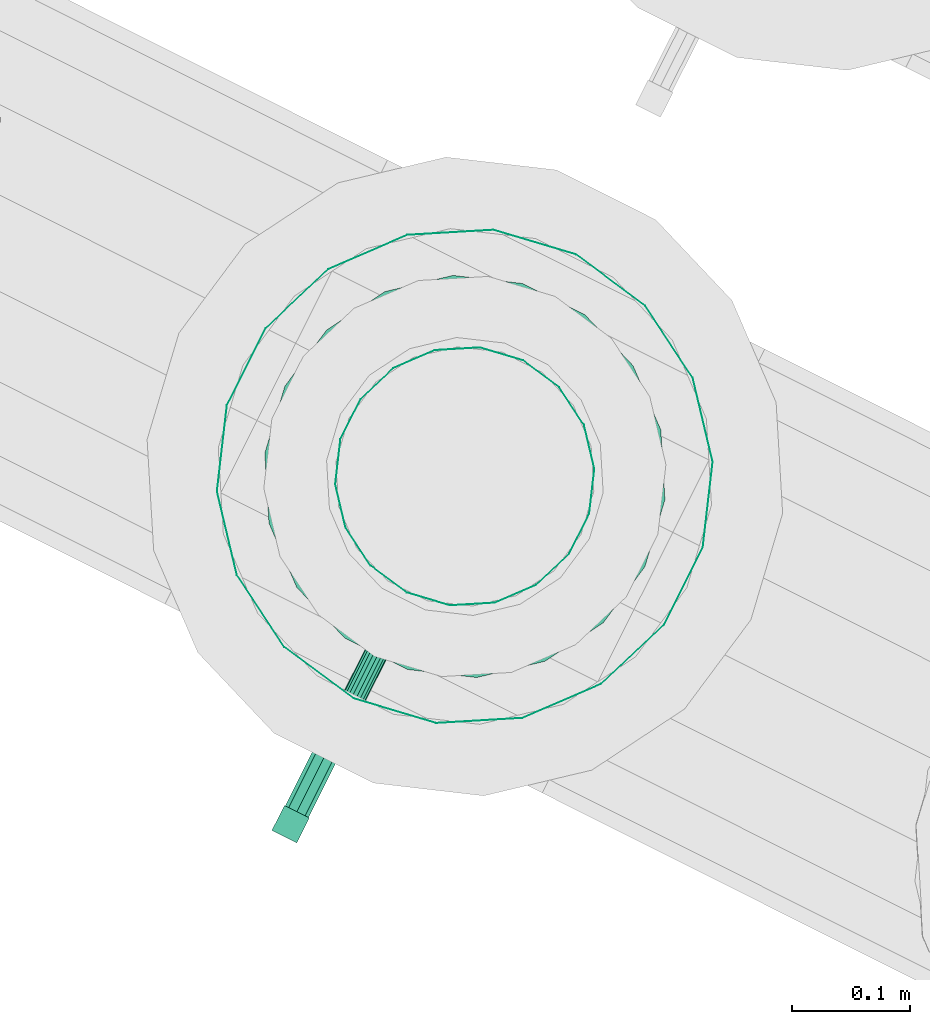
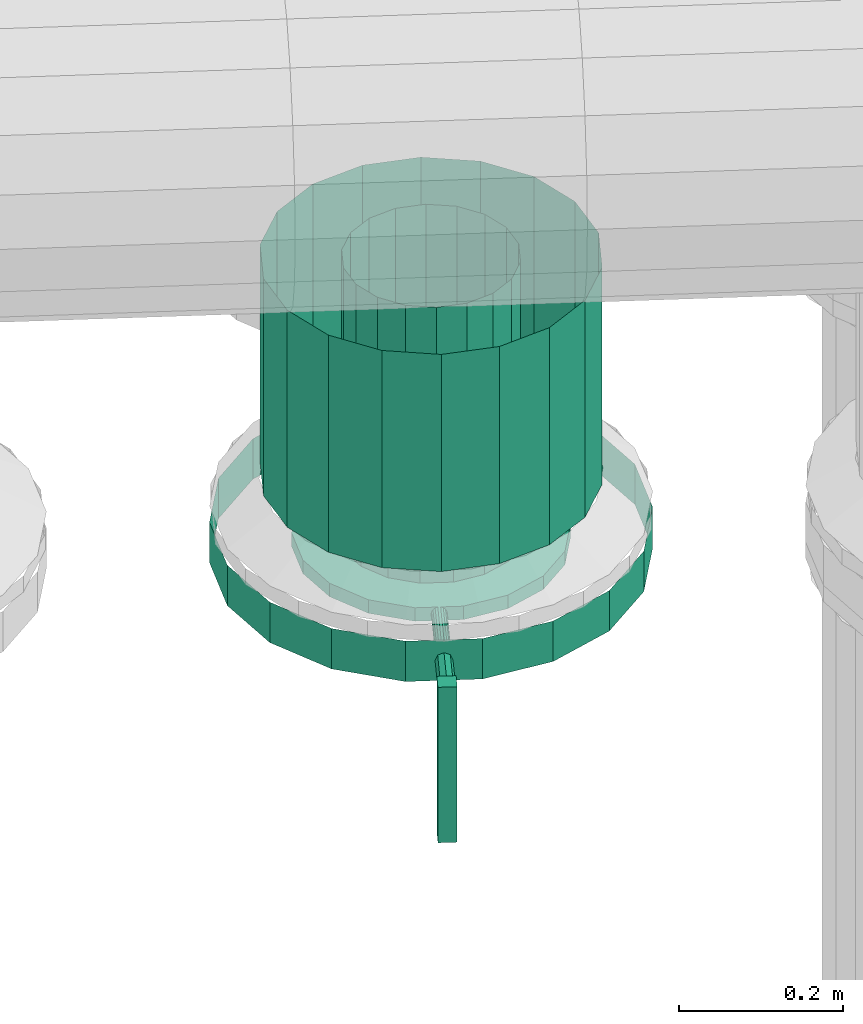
# One storey, part 91 of 152: 1 flow controller, 1 flow segment.
"""IFC2X3 building model written with IfcOpenShell, lengths in metres."""

from ifc_helpers import new_model, si_unit, derived_unit, direction, frame, origin, place, context, subcontext, project, spatial, face_set, surface_model, source, transform, mapped, material, type_object, type_shapes, element, save


model = new_model("IFC2X3")

# Units and contexts
model_context = context("Model", 3, precision=5.2338327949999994e-05, world=origin(), true_north=direction((0.0, 1.0)))
body_context = subcontext(model_context, "Body", "Model", "MODEL_VIEW")
ifc_project = project(units=[si_unit("LENGTHUNIT", "METRE"), si_unit("AREAUNIT", "SQUARE_METRE"), si_unit("VOLUMEUNIT", "CUBIC_METRE"), si_unit("MASSUNIT", "GRAM", prefix="KILO"), si_unit("PLANEANGLEUNIT", "RADIAN"), derived_unit("THERMALTRANSMITTANCEUNIT", [(si_unit("MASSUNIT", "GRAM", prefix="KILO"), 1), (si_unit("THERMODYNAMICTEMPERATUREUNIT", "KELVIN"), -1), (si_unit("TIMEUNIT", "SECOND"), -3)])], contexts=[model_context])

# Site, building, storey
site_placement = place(None, frame((0.0, 0.0, 0.0), z_axis=(0.0, 0.0, 1.0), x_axis=(0.8939966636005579, -0.4480736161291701, 0.0)))
site = spatial("IfcSite", under=ifc_project, at=site_placement, Name="Default", CompositionType="ELEMENT")
building_placement = place(site_placement, origin())
building = spatial("IfcBuilding", under=site, at=building_placement, CompositionType="ELEMENT")
storey_placement = place(building_placement, frame((0.0, 0.0, 2.7499999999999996)))
storey = spatial("IfcBuildingStorey", under=building, at=storey_placement, Name="1. Obergeschoss", CompositionType="ELEMENT", Elevation=2.7499999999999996)

# Flow controller
ifc_material = material(Name="IfcSurfaceStyle #9317")
distribution_element_type_1 = type_object("IfcDistributionElementType", Name="Zwischenflanschklappe 245443:Zwischenflanschklappe 245443", material=ifc_material)
shared_shape_1 = source(origin(), body_context, "Body", "SurfaceModel", [
    surface_model("IfcFaceBasedSurfaceModel", [(5.849669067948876, 7.010708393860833, 4.741522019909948), (5.849669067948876, 7.010708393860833, 4.9723720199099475), (5.873169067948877, 7.010708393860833, 4.9723720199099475), (5.873169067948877, 7.010708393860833, 4.741522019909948), (5.873169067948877, 6.987208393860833, 4.9723720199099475), (5.873169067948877, 6.987208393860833, 4.741522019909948), (5.849669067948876, 6.987208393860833, 4.9723720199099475), (5.849669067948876, 6.987208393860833, 4.741522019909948), (5.978919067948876, 7.3272083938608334, 4.930622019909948), (5.971832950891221, 7.367395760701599, 4.930622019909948), (5.971832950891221, 7.367395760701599, 4.9506220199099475), (5.978919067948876, 7.3272083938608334, 4.9506220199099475), (5.951429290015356, 7.402735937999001, 4.930622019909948), (5.951429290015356, 7.402735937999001, 4.9506220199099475), (5.920169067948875, 7.428966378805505, 4.930622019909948), (5.920169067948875, 7.428966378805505, 4.9506220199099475), (5.881822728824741, 7.442923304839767, 4.930622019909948), (5.881822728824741, 7.442923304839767, 4.9506220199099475), (5.841015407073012, 7.442923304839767, 4.930622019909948), (5.841015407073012, 7.442923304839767, 4.9506220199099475), (5.802669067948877, 7.428966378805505, 4.930622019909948), (5.802669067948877, 7.428966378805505, 4.9506220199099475), (5.771408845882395, 7.402735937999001, 4.930622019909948), (5.771408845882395, 7.402735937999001, 4.9506220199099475), (5.75100518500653, 7.367395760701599, 4.930622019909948), (5.75100518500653, 7.367395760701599, 4.9506220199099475), (5.743919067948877, 7.3272083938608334, 4.930622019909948), (5.743919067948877, 7.3272083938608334, 4.9506220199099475), (5.75100518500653, 7.287021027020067, 4.930622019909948), (5.75100518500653, 7.287021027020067, 4.9506220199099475), (5.771408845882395, 7.251680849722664, 4.930622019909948), (5.771408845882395, 7.251680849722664, 4.9506220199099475), (5.802669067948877, 7.22545040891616, 4.930622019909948), (5.802669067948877, 7.22545040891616, 4.9506220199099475), (5.841015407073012, 7.211493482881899, 4.930622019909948), (5.841015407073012, 7.211493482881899, 4.9506220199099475), (5.881822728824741, 7.211493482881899, 4.930622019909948), (5.881822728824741, 7.211493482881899, 4.9506220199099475), (5.920169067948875, 7.225450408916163, 4.930622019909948), (5.920169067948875, 7.225450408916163, 4.9506220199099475), (5.951429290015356, 7.251680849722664, 4.930622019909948), (5.951429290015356, 7.251680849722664, 4.9506220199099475), (5.971832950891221, 7.287021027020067, 4.930622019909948), (5.971832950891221, 7.287021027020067, 4.9506220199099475), (5.861419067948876, 7.3272083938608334, 4.930622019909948), (5.861419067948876, 7.3272083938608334, 4.9506220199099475), (6.031419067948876, 7.3272083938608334, 4.9506220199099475), (6.0211668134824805, 7.385351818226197, 4.9506220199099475), (6.0211668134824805, 7.385351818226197, 4.970622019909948), (6.031419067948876, 7.3272083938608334, 4.970622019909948), (5.991646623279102, 7.436482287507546, 4.9506220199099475), (5.991646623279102, 7.436482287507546, 4.970622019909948), (5.9464190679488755, 7.4744327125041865, 4.9506220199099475), (5.9464190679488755, 7.4744327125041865, 4.970622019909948), (5.890939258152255, 7.494625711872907, 4.9506220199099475), (5.890939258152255, 7.494625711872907, 4.970622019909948), (5.831898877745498, 7.494625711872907, 4.9506220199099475), (5.831898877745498, 7.494625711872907, 4.970622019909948), (5.776419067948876, 7.4744327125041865, 4.9506220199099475), (5.776419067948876, 7.4744327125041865, 4.970622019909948), (5.731191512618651, 7.436482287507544, 4.9506220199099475), (5.731191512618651, 7.436482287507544, 4.970622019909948), (5.701671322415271, 7.385351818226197, 4.9506220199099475), (5.701671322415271, 7.385351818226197, 4.970622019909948), (5.6914190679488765, 7.3272083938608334, 4.9506220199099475), (5.6914190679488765, 7.3272083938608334, 4.970622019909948), (5.701671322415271, 7.269064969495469, 4.9506220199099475), (5.701671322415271, 7.269064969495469, 4.970622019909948), (5.731191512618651, 7.21793450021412, 4.9506220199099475), (5.731191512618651, 7.21793450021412, 4.970622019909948), (5.776419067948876, 7.179984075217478, 4.9506220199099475), (5.776419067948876, 7.179984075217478, 4.970622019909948), (5.831898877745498, 7.159791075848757, 4.9506220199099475), (5.831898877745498, 7.159791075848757, 4.970622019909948), (5.8909392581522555, 7.159791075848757, 4.9506220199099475), (5.8909392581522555, 7.159791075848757, 4.970622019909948), (5.9464190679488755, 7.179984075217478, 4.9506220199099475), (5.9464190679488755, 7.179984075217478, 4.970622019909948), (5.991646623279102, 7.217934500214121, 4.9506220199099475), (5.991646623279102, 7.217934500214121, 4.970622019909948), (6.021166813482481, 7.269064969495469, 4.9506220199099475), (6.021166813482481, 7.269064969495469, 4.970622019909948), (5.861419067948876, 7.3272083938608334, 4.970622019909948), (5.978919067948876, 7.3272083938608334, 4.970622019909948), (5.971832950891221, 7.367395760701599, 4.970622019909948), (5.971832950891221, 7.367395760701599, 4.990622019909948), (5.978919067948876, 7.3272083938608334, 4.990622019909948), (5.951429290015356, 7.402735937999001, 4.970622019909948), (5.951429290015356, 7.402735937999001, 4.990622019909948), (5.920169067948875, 7.428966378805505, 4.970622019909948), (5.920169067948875, 7.428966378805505, 4.990622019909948), (5.881822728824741, 7.442923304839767, 4.970622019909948), (5.881822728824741, 7.442923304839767, 4.990622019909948), (5.841015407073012, 7.442923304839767, 4.970622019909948), (5.841015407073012, 7.442923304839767, 4.990622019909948), (5.802669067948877, 7.428966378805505, 4.970622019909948), (5.802669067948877, 7.428966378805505, 4.990622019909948), (5.771408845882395, 7.402735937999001, 4.970622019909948), (5.771408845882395, 7.402735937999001, 4.990622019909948), (5.75100518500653, 7.367395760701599, 4.970622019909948), (5.75100518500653, 7.367395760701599, 4.990622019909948), (5.743919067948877, 7.3272083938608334, 4.970622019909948), (5.743919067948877, 7.3272083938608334, 4.990622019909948), (5.75100518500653, 7.287021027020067, 4.970622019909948), (5.75100518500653, 7.287021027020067, 4.990622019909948), (5.771408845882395, 7.251680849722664, 4.970622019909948), (5.771408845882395, 7.251680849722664, 4.990622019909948), (5.802669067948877, 7.22545040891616, 4.970622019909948), (5.802669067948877, 7.22545040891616, 4.990622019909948), (5.841015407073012, 7.211493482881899, 4.970622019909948), (5.841015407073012, 7.211493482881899, 4.990622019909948), (5.881822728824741, 7.211493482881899, 4.970622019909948), (5.881822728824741, 7.211493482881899, 4.990622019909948), (5.920169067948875, 7.225450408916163, 4.970622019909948), (5.920169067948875, 7.225450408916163, 4.990622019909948), (5.951429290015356, 7.251680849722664, 4.970622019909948), (5.951429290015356, 7.251680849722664, 4.990622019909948), (5.971832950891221, 7.287021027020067, 4.970622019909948), (5.971832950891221, 7.287021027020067, 4.990622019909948), (5.861419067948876, 7.3272083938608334, 4.990622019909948), (5.871419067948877, 7.3272083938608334, 4.960622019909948), (5.870815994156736, 7.3272083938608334, 4.964042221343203), (5.870815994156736, 7.083958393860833, 4.964042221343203), (5.871419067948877, 7.083958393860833, 4.960622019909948), (5.869079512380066, 7.3272083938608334, 4.967049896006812), (5.869079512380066, 7.083958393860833, 4.967049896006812), (5.8664190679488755, 7.3272083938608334, 4.969282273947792), (5.8664190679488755, 7.083958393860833, 4.969282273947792), (5.863155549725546, 7.3272083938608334, 4.97047009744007), (5.863155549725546, 7.083958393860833, 4.97047009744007), (5.859682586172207, 7.3272083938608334, 4.97047009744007), (5.859682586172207, 7.083958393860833, 4.97047009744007), (5.856419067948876, 7.3272083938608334, 4.969282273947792), (5.856419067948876, 7.083958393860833, 4.969282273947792), (5.8537586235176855, 7.3272083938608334, 4.967049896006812), (5.8537586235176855, 7.083958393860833, 4.967049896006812), (5.852022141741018, 7.3272083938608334, 4.964042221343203), (5.852022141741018, 7.083958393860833, 4.964042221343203), (5.851419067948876, 7.3272083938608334, 4.960622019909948), (5.851419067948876, 7.083958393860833, 4.960622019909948), (5.852022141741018, 7.3272083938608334, 4.957201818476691), (5.852022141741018, 7.083958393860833, 4.957201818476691), (5.8537586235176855, 7.3272083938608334, 4.9541941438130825), (5.8537586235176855, 7.083958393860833, 4.9541941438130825), (5.856419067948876, 7.3272083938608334, 4.951961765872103), (5.856419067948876, 7.083958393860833, 4.951961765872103), (5.859682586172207, 7.3272083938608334, 4.950773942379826), (5.859682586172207, 7.083958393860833, 4.950773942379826), (5.863155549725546, 7.3272083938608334, 4.950773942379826), (5.863155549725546, 7.083958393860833, 4.950773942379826), (5.8664190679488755, 7.3272083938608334, 4.951961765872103), (5.8664190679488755, 7.083958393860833, 4.951961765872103), (5.869079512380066, 7.3272083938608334, 4.9541941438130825), (5.869079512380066, 7.083958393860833, 4.9541941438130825), (5.870815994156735, 7.3272083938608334, 4.957201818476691), (5.870815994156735, 7.083958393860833, 4.957201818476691), (5.861419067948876, 7.3272083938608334, 4.960622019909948), (5.861419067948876, 7.083958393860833, 4.960622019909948), (5.8723740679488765, 7.083958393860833, 4.960622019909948), (5.869165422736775, 7.083958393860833, 4.968368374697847), (5.869165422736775, 7.010708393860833, 4.968368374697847), (5.8723740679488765, 7.010708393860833, 4.960622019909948), (5.861419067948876, 7.083958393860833, 4.971577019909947), (5.861419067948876, 7.010708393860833, 4.971577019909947), (5.853672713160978, 7.083958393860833, 4.968368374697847), (5.853672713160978, 7.010708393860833, 4.968368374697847), (5.850464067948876, 7.083958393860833, 4.960622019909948), (5.850464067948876, 7.010708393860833, 4.960622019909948), (5.853672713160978, 7.083958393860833, 4.952875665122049), (5.853672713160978, 7.010708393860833, 4.952875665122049), (5.861419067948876, 7.083958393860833, 4.949667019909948), (5.861419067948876, 7.010708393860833, 4.949667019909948), (5.869165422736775, 7.083958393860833, 4.952875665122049), (5.869165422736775, 7.010708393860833, 4.952875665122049), (5.861419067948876, 7.010708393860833, 4.960622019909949), (6.131419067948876, 7.3272083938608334, 4.930622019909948), (6.115136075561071, 7.419553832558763, 4.930622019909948), (6.115136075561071, 7.419553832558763, 4.990622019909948), (6.131419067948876, 7.3272083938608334, 4.990622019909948), (6.068251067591, 7.500761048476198, 4.930622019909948), (6.068251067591, 7.500761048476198, 4.990622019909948), (5.996419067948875, 7.561035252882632, 4.930622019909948), (5.996419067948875, 7.561035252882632, 4.990622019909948), (5.908304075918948, 7.593106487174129, 4.930622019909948), (5.908304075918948, 7.593106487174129, 4.990622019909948), (5.814534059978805, 7.593106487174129, 4.930622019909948), (5.814534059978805, 7.593106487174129, 4.990622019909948), (5.726419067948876, 7.561035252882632, 4.930622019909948), (5.726419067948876, 7.561035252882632, 4.990622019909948), (5.6545870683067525, 7.500761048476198, 4.930622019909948), (5.6545870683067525, 7.500761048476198, 4.990622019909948), (5.60770206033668, 7.419553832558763, 4.930622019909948), (5.60770206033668, 7.419553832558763, 4.990622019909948), (5.591419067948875, 7.3272083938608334, 4.930622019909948), (5.591419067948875, 7.3272083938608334, 4.990622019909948), (5.60770206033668, 7.234862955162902, 4.930622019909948), (5.60770206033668, 7.234862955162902, 4.990622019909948), (5.6545870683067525, 7.153655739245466, 4.930622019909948), (5.6545870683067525, 7.153655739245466, 4.990622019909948), (5.726419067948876, 7.093381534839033, 4.930622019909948), (5.726419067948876, 7.093381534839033, 4.990622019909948), (5.814534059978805, 7.061310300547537, 4.930622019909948), (5.814534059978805, 7.061310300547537, 4.990622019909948), (5.908304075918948, 7.061310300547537, 4.930622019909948), (5.908304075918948, 7.061310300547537, 4.990622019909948), (5.996419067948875, 7.093381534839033, 4.930622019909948), (5.996419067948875, 7.093381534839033, 4.990622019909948), (6.068251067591, 7.153655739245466, 4.930622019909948), (6.068251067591, 7.153655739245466, 4.990622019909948), (6.115136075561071, 7.234862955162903, 4.930622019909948), (6.115136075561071, 7.234862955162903, 4.990622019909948)], [face_set([[[0, 1, 2, 3]], [[3, 2, 4, 5]], [[5, 4, 6, 7]], [[7, 6, 1, 0]], [[0, 3, 5, 7]], [[6, 4, 2, 1]], [[8, 9, 10, 11]], [[9, 12, 13, 10]], [[12, 14, 15, 13]], [[14, 16, 17, 15]], [[16, 18, 19, 17]], [[18, 20, 21, 19]], [[20, 22, 23, 21]], [[22, 24, 25, 23]], [[24, 26, 27, 25]], [[26, 28, 29, 27]], [[28, 30, 31, 29]], [[30, 32, 33, 31]], [[32, 34, 35, 33]], [[34, 36, 37, 35]], [[36, 38, 39, 37]], [[38, 40, 41, 39]], [[40, 42, 43, 41]], [[42, 8, 11, 43]], [[44, 9, 8]], [[44, 12, 9]], [[44, 14, 12]], [[44, 16, 14]], [[44, 18, 16]], [[44, 20, 18]], [[44, 22, 20]], [[44, 24, 22]], [[44, 26, 24]], [[44, 28, 26]], [[44, 30, 28]], [[44, 32, 30]], [[44, 34, 32]], [[44, 36, 34]], [[44, 38, 36]], [[44, 40, 38]], [[44, 42, 40]], [[44, 8, 42]], [[45, 43, 11]], [[45, 41, 43]], [[45, 39, 41]], [[45, 37, 39]], [[45, 35, 37]], [[45, 33, 35]], [[45, 31, 33]], [[45, 29, 31]], [[45, 27, 29]], [[45, 25, 27]], [[45, 23, 25]], [[45, 21, 23]], [[45, 19, 21]], [[45, 17, 19]], [[45, 15, 17]], [[45, 13, 15]], [[45, 10, 13]], [[45, 11, 10]], [[46, 47, 48, 49]], [[47, 50, 51, 48]], [[50, 52, 53, 51]], [[52, 54, 55, 53]], [[54, 56, 57, 55]], [[56, 58, 59, 57]], [[58, 60, 61, 59]], [[60, 62, 63, 61]], [[62, 64, 65, 63]], [[64, 66, 67, 65]], [[66, 68, 69, 67]], [[68, 70, 71, 69]], [[70, 72, 73, 71]], [[72, 74, 75, 73]], [[74, 76, 77, 75]], [[76, 78, 79, 77]], [[78, 80, 81, 79]], [[80, 46, 49, 81]], [[45, 47, 46]], [[45, 50, 47]], [[45, 52, 50]], [[45, 54, 52]], [[45, 56, 54]], [[45, 58, 56]], [[45, 60, 58]], [[45, 62, 60]], [[45, 64, 62]], [[45, 66, 64]], [[45, 68, 66]], [[45, 70, 68]], [[45, 72, 70]], [[45, 74, 72]], [[45, 76, 74]], [[45, 78, 76]], [[45, 80, 78]], [[45, 46, 80]], [[82, 81, 49]], [[82, 79, 81]], [[82, 77, 79]], [[82, 75, 77]], [[82, 73, 75]], [[82, 71, 73]], [[82, 69, 71]], [[82, 67, 69]], [[82, 65, 67]], [[82, 63, 65]], [[82, 61, 63]], [[82, 59, 61]], [[82, 57, 59]], [[82, 55, 57]], [[82, 53, 55]], [[82, 51, 53]], [[82, 48, 51]], [[82, 49, 48]], [[83, 84, 85, 86]], [[84, 87, 88, 85]], [[87, 89, 90, 88]], [[89, 91, 92, 90]], [[91, 93, 94, 92]], [[93, 95, 96, 94]], [[95, 97, 98, 96]], [[97, 99, 100, 98]], [[99, 101, 102, 100]], [[101, 103, 104, 102]], [[103, 105, 106, 104]], [[105, 107, 108, 106]], [[107, 109, 110, 108]], [[109, 111, 112, 110]], [[111, 113, 114, 112]], [[113, 115, 116, 114]], [[115, 117, 118, 116]], [[117, 83, 86, 118]], [[82, 84, 83]], [[82, 87, 84]], [[82, 89, 87]], [[82, 91, 89]], [[82, 93, 91]], [[82, 95, 93]], [[82, 97, 95]], [[82, 99, 97]], [[82, 101, 99]], [[82, 103, 101]], [[82, 105, 103]], [[82, 107, 105]], [[82, 109, 107]], [[82, 111, 109]], [[82, 113, 111]], [[82, 115, 113]], [[82, 117, 115]], [[82, 83, 117]], [[119, 118, 86]], [[119, 116, 118]], [[119, 114, 116]], [[119, 112, 114]], [[119, 110, 112]], [[119, 108, 110]], [[119, 106, 108]], [[119, 104, 106]], [[119, 102, 104]], [[119, 100, 102]], [[119, 98, 100]], [[119, 96, 98]], [[119, 94, 96]], [[119, 92, 94]], [[119, 90, 92]], [[119, 88, 90]], [[119, 85, 88]], [[119, 86, 85]], [[120, 121, 122, 123]], [[121, 124, 125, 122]], [[124, 126, 127, 125]], [[126, 128, 129, 127]], [[128, 130, 131, 129]], [[130, 132, 133, 131]], [[132, 134, 135, 133]], [[134, 136, 137, 135]], [[136, 138, 139, 137]], [[138, 140, 141, 139]], [[140, 142, 143, 141]], [[142, 144, 145, 143]], [[144, 146, 147, 145]], [[146, 148, 149, 147]], [[148, 150, 151, 149]], [[150, 152, 153, 151]], [[152, 154, 155, 153]], [[154, 120, 123, 155]], [[156, 121, 120]], [[156, 124, 121]], [[156, 126, 124]], [[156, 128, 126]], [[156, 130, 128]], [[156, 132, 130]], [[156, 134, 132]], [[156, 136, 134]], [[156, 138, 136]], [[156, 140, 138]], [[156, 142, 140]], [[156, 144, 142]], [[156, 146, 144]], [[156, 148, 146]], [[156, 150, 148]], [[156, 152, 150]], [[156, 154, 152]], [[156, 120, 154]], [[157, 155, 123]], [[157, 153, 155]], [[157, 151, 153]], [[157, 149, 151]], [[157, 147, 149]], [[157, 145, 147]], [[157, 143, 145]], [[157, 141, 143]], [[157, 139, 141]], [[157, 137, 139]], [[157, 135, 137]], [[157, 133, 135]], [[157, 131, 133]], [[157, 129, 131]], [[157, 127, 129]], [[157, 125, 127]], [[157, 122, 125]], [[157, 123, 122]], [[158, 159, 160, 161]], [[159, 162, 163, 160]], [[162, 164, 165, 163]], [[164, 166, 167, 165]], [[166, 168, 169, 167]], [[168, 170, 171, 169]], [[170, 172, 173, 171]], [[172, 158, 161, 173]], [[174, 173, 161]], [[174, 171, 173]], [[174, 169, 171]], [[174, 167, 169]], [[174, 165, 167]], [[174, 163, 165]], [[174, 160, 163]], [[174, 161, 160]], [[175, 176, 177, 178]], [[176, 179, 180, 177]], [[179, 181, 182, 180]], [[181, 183, 184, 182]], [[183, 185, 186, 184]], [[185, 187, 188, 186]], [[187, 189, 190, 188]], [[189, 191, 192, 190]], [[191, 193, 194, 192]], [[193, 195, 196, 194]], [[195, 197, 198, 196]], [[197, 199, 200, 198]], [[199, 201, 202, 200]], [[201, 203, 204, 202]], [[203, 205, 206, 204]], [[205, 207, 208, 206]], [[207, 209, 210, 208]], [[209, 175, 178, 210]]])]),
])
type_shapes(distribution_element_type_1, [shared_shape_1])
flow_controller_placement = place(storey_placement, frame((0.0, 0.0, -2.7499999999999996)))
element("IfcFlowController", 1, at=flow_controller_placement, inside=storey, type_object=distribution_element_type_1, material=ifc_material, Name="Zwischenflanschklappe", ObjectType="Zwischenflanschklappe", context=body_context, shape_type="MappedRepresentation", body=[
    mapped(shared_shape_1, transform((0.0, 0.0, 0.0), scale=1.0)),
])

# Flow segment
distribution_element_type_2 = type_object("IfcDistributionElementType", Name="Stahlrohr nach DIN 2448 245466:Stahlrohr nach DIN 2448 245466", material=ifc_material)
shared_shape_2 = source(origin(), body_context, "Body", "SurfaceModel", [
    surface_model("IfcFaceBasedSurfaceModel", [(5.8614190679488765, 7.217658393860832, 5.375028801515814), (5.82395076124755, 7.224265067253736, 5.375028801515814), (5.82395076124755, 7.224265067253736, 5.052622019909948), (5.8614190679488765, 7.217658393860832, 5.052622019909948), (5.791001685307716, 7.243288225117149, 5.375028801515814), (5.791001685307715, 7.243288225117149, 5.052622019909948), (5.766545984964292, 7.272433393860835, 5.375028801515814), (5.766545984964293, 7.272433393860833, 5.052622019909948), (5.753533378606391, 7.30818523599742, 5.375028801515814), (5.753533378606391, 7.30818523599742, 5.052622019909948), (5.753533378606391, 7.346231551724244, 5.375028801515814), (5.753533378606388, 7.346231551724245, 5.052622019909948), (5.766545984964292, 7.381983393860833, 5.375028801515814), (5.766545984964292, 7.381983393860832, 5.052622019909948), (5.7910016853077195, 7.411128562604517, 5.375028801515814), (5.791001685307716, 7.411128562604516, 5.052622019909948), (5.823950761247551, 7.430151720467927, 5.375028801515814), (5.82395076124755, 7.430151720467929, 5.052622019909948), (5.861419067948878, 7.436758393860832, 5.375028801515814), (5.8614190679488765, 7.436758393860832, 5.052622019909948), (5.898887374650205, 7.430151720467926, 5.375028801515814), (5.898887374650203, 7.430151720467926, 5.052622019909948), (5.931836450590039, 7.411128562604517, 5.375028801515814), (5.931836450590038, 7.411128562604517, 5.052622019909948), (5.9562921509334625, 7.381983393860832, 5.375028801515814), (5.956292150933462, 7.381983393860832, 5.052622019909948), (5.969304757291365, 7.346231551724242, 5.375028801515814), (5.969304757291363, 7.3462315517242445, 5.052622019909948), (5.969304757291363, 7.30818523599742, 5.375028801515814), (5.969304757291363, 7.30818523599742, 5.052622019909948), (5.956292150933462, 7.272433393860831, 5.375028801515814), (5.956292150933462, 7.272433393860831, 5.052622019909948), (5.931836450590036, 7.243288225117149, 5.375028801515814), (5.931836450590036, 7.243288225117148, 5.052622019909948), (5.8988873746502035, 7.224265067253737, 5.375028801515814), (5.898887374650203, 7.224265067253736, 5.052622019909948), (5.8614190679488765, 7.1176583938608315, 5.375028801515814), (5.789748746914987, 7.130295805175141, 5.375028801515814), (5.789748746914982, 7.130295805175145, 5.052622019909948), (5.8614190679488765, 7.117658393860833, 5.052622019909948), (5.7267229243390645, 7.166683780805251, 5.375028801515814), (5.726722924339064, 7.166683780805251, 5.052622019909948), (5.679943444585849, 7.222433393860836, 5.375028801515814), (5.679943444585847, 7.222433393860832, 5.052622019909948), (5.655052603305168, 7.290820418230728, 5.375028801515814), (5.655052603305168, 7.290820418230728, 5.052622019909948), (5.655052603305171, 7.363596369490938, 5.375028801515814), (5.655052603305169, 7.363596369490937, 5.052622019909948), (5.679943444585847, 7.4319833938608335, 5.375028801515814), (5.679943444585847, 7.431983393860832, 5.052622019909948), (5.7267229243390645, 7.487733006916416, 5.375028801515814), (5.726722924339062, 7.487733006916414, 5.052622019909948), (5.789748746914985, 7.52412098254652, 5.375028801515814), (5.789748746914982, 7.524120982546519, 5.052622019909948), (5.861419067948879, 7.536758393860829, 5.375028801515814), (5.861419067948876, 7.536758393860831, 5.052622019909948), (5.933089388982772, 7.5241209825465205, 5.375028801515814), (5.933089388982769, 7.524120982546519, 5.052622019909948), (5.996115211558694, 7.487733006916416, 5.375028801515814), (5.996115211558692, 7.487733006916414, 5.052622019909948), (6.042894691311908, 7.431983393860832, 5.375028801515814), (6.042894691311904, 7.431983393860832, 5.052622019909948), (6.067785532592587, 7.363596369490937, 5.375028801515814), (6.067785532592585, 7.363596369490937, 5.052622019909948), (6.067785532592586, 7.290820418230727, 5.375028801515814), (6.067785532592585, 7.290820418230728, 5.052622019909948), (6.042894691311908, 7.2224333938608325, 5.375028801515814), (6.042894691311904, 7.222433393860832, 5.052622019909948), (5.996115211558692, 7.16668378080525, 5.375028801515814), (5.996115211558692, 7.16668378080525, 5.052622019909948), (5.933089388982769, 7.130295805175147, 5.375028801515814), (5.9330893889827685, 7.130295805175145, 5.052622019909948)], [face_set([[[0, 1, 2, 3]], [[1, 4, 5, 2]], [[4, 6, 7, 5]], [[6, 8, 9, 7]], [[8, 10, 11, 9]], [[10, 12, 13, 11]], [[12, 14, 15, 13]], [[14, 16, 17, 15]], [[16, 18, 19, 17]], [[18, 20, 21, 19]], [[20, 22, 23, 21]], [[22, 24, 25, 23]], [[24, 26, 27, 25]], [[26, 28, 29, 27]], [[28, 30, 31, 29]], [[30, 32, 33, 31]], [[32, 34, 35, 33]], [[34, 0, 3, 35]], [[36, 37, 38, 39]], [[37, 40, 41, 38]], [[40, 42, 43, 41]], [[42, 44, 45, 43]], [[44, 46, 47, 45]], [[46, 48, 49, 47]], [[48, 50, 51, 49]], [[50, 52, 53, 51]], [[52, 54, 55, 53]], [[54, 56, 57, 55]], [[56, 58, 59, 57]], [[58, 60, 61, 59]], [[60, 62, 63, 61]], [[62, 64, 65, 63]], [[64, 66, 67, 65]], [[66, 68, 69, 67]], [[68, 70, 71, 69]], [[70, 36, 39, 71]]])]),
])
type_shapes(distribution_element_type_2, [shared_shape_2])
flow_segment_placement = place(storey_placement, frame((0.0, 0.0, -2.7499999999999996)))
element("IfcFlowSegment", 2, at=flow_segment_placement, inside=storey, type_object=distribution_element_type_2, material=ifc_material, Name="Stahlrohr nach DIN 2448", ObjectType="Stahlrohr nach DIN 2448", context=body_context, shape_type="MappedRepresentation", body=[
    mapped(shared_shape_2, transform((0.0, 0.0, 0.0), scale=1.0)),
])

save(model, "model.ifc")
